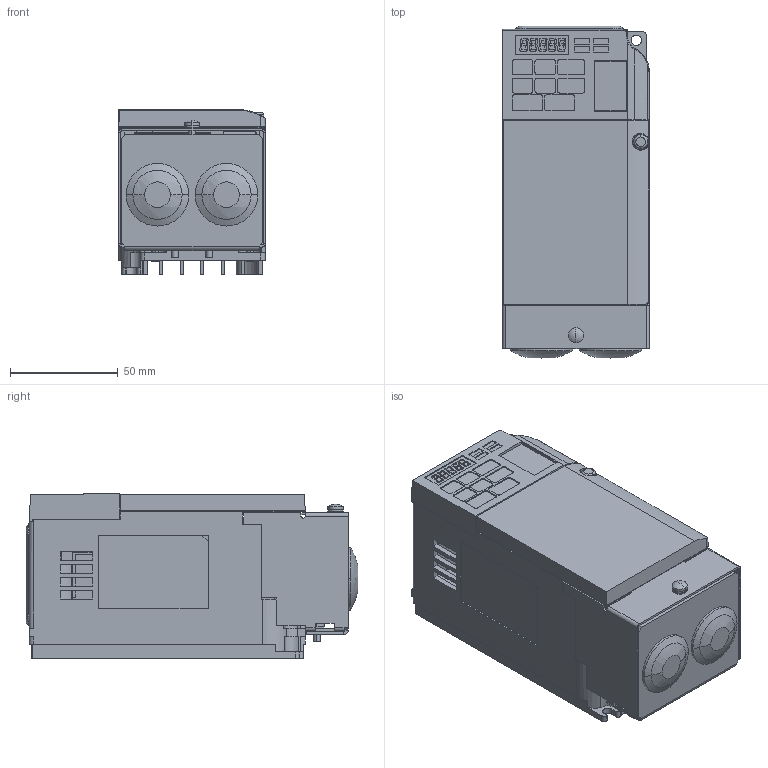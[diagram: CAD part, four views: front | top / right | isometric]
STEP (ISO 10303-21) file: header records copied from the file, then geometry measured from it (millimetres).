
FILE_DESCRIPTION((''),'2;1');
FILE_NAME('VUBA0001FAA_ASM','2009-08-10T',('Proe4321'),(''),'PRO/ENGINEER BY PARAMETRIC TECHNOLOGY CORPORATION, 2007250','PRO/ENGINEER BY PARAMETRIC TECHNOLOGY CORPORATION, 2007250','');
FILE_SCHEMA(('CONFIG_CONTROL_DESIGN'));
Products named in the file (9): VUBA0001FAA_BASE; VUBA0001FAA_COVER1; VUBA0001FAA_COVER2; VUBA0001FAA_COVER3; VUBA0001FAA_COVER4; VUBA0001FAA_COVER5; VUBA0001FAA_COVER6; VUBA0001FAA_GROMMET1; VUBA0001FAA_ASM
Assembly tree (9 placements, depth 2):
  VUBA0001FAA_ASM
    VUBA0001FAA_BASE
    VUBA0001FAA_COVER1
    VUBA0001FAA_COVER2
    VUBA0001FAA_COVER3
    VUBA0001FAA_COVER4
    VUBA0001FAA_COVER5
    VUBA0001FAA_COVER6
    VUBA0001FAA_GROMMET1  x2
Bounding box: 68 x 153.92 x 76.35 mm (x, y, z)
Volume: 215663.5 mm3; surface area: 173646.2 mm2
Topology: 9 solids, 9 shells, 3632 faces, 9712 edges, 6320 vertices
Faces by surface type: plane 2849, cylinder 559, extrusion 105, torus 62, sphere 36, cone 19, bspline 2
Entity records: 112739 total; most frequent: CARTESIAN_POINT 21532, ORIENTED_EDGE 19300, DIRECTION 17906, EDGE_CURVE 9650, VECTOR 7950, LINE 7845, VERTEX_POINT 6302, AXIS2_PLACEMENT_3D 4978
